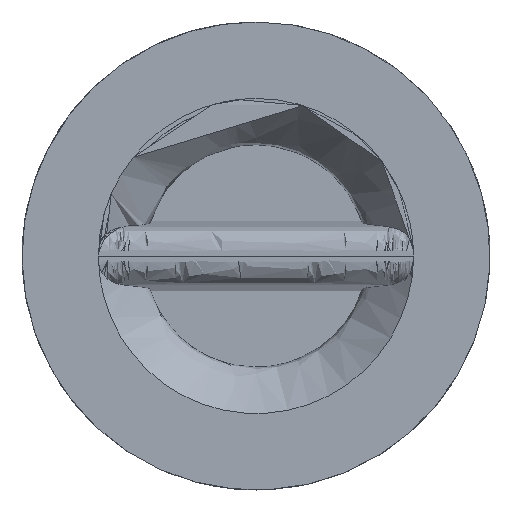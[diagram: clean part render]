
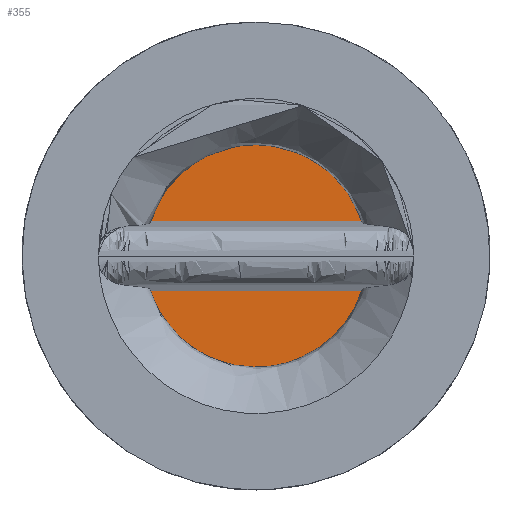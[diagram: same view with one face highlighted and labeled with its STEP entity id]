
A CAD part, left-side view. The second image highlights one B-rep face of the part: STEP entity #355.
In plain terms, the highlighted planar face has unit normal (-1, 0, 0).
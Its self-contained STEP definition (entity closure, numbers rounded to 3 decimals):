
#355=ADVANCED_FACE('',(#8652,#8654),#8656,.T.);
#8652=FACE_BOUND('',#8653,.T.);
#8653=EDGE_LOOP('',(#15199));
#8654=FACE_BOUND('',#8655,.T.);
#8655=EDGE_LOOP('',(#15200));
#8656=PLANE('',#8657);
#8657=AXIS2_PLACEMENT_3D('',#8658,#8659,#8660);
#8658=CARTESIAN_POINT('',(3342.121,1533.212,28.));
#8659=DIRECTION('',(-1.,0.,0.));
#8660=DIRECTION('',(0.,-1.,0.));
#15199=ORIENTED_EDGE('',*,*,#19691,.F.);
#15200=ORIENTED_EDGE('',*,*,#20195,.T.);
#19691=EDGE_CURVE('',#22270,#22270,#22271,.T.);
#20195=EDGE_CURVE('',#23278,#23278,#23279,.T.);
#22270=VERTEX_POINT('',#30986);
#22271=CIRCLE('',#30987,28.);
#23278=VERTEX_POINT('',#33300);
#23279=CIRCLE('',#33301,7.4);
#30986=CARTESIAN_POINT('',(3342.121,1533.212,-28.));
#30987=AXIS2_PLACEMENT_3D('',#30988,#30989,#30990);
#30988=CARTESIAN_POINT('',(3342.121,1533.212,0.));
#30989=DIRECTION('',(1.,0.,0.));
#30990=DIRECTION('',(0.,0.,1.));
#33300=CARTESIAN_POINT('',(3342.121,1533.212,-7.4));
#33301=AXIS2_PLACEMENT_3D('',#33302,#33303,#33304);
#33302=CARTESIAN_POINT('',(3342.121,1533.212,0.));
#33303=DIRECTION('',(1.,0.,0.));
#33304=DIRECTION('',(0.,0.,1.));
